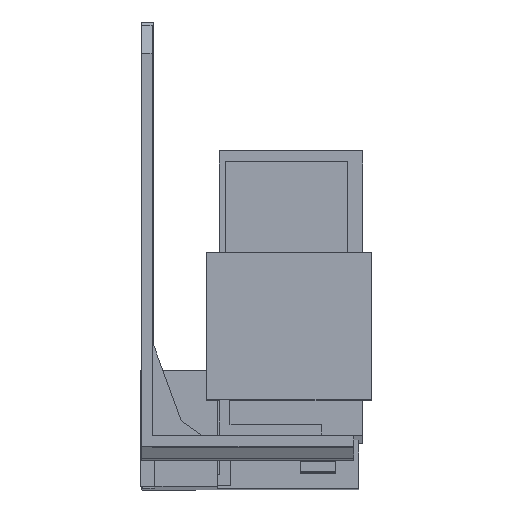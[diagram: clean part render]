
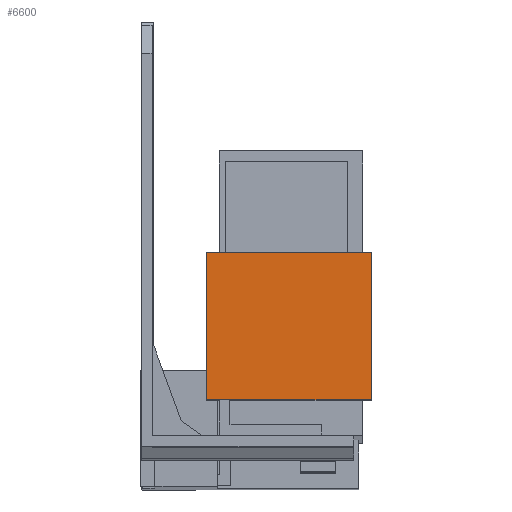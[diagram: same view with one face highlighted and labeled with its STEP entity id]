
A CAD part, front view. The second image highlights one B-rep face of the part: STEP entity #6600.
In plain terms, the highlighted planar face has unit normal (0, -1, 0.003).
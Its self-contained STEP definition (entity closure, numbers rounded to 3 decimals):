
#452 = CARTESIAN_POINT ( 'NONE',  ( 32.7, -29.009, -40.322 ) ) ;
#466 = CARTESIAN_POINT ( 'NONE',  ( 9.3, -28.952, -19.322 ) ) ;
#468 = CARTESIAN_POINT ( 'NONE',  ( 32.7, -28.952, -19.322 ) ) ;
#469 = CARTESIAN_POINT ( 'NONE',  ( 9.3, -29.009, -40.322 ) ) ;
#772 = VERTEX_POINT ( 'NONE', #466 ) ;
#776 = VERTEX_POINT ( 'NONE', #468 ) ;
#780 = VERTEX_POINT ( 'NONE', #469 ) ;
#793 = VERTEX_POINT ( 'NONE', #452 ) ;
#1347 = EDGE_CURVE ( 'NONE', #772, #776, #4290, .T. ) ;
#1428 = EDGE_CURVE ( 'NONE', #780, #793, #4429, .T. ) ;
#1863 = CARTESIAN_POINT ( 'NONE',  ( 32.7, -29.009, -40.322 ) ) ;
#1864 = DIRECTION ( 'NONE',  ( 0., 0.003, 1. ) ) ;
#2211 = CARTESIAN_POINT ( 'NONE',  ( 9.3, -29.009, -40.322 ) ) ;
#2212 = DIRECTION ( 'NONE',  ( 0., 0.003, 1. ) ) ;
#2571 = LINE ( 'NONE', #1863, #2572 ) ;
#2572 = VECTOR ( 'NONE', #1864, 1000. ) ;
#2771 = LINE ( 'NONE', #2211, #2772 ) ;
#2772 = VECTOR ( 'NONE', #2212, 1000. ) ;
#3454 = PLANE ( 'NONE',  #7002 ) ;
#3457 = CARTESIAN_POINT ( 'NONE',  ( 9.3, -29.009, -40.322 ) ) ;
#3463 = DIRECTION ( 'NONE',  ( 0., -1., 0.003 ) ) ;
#3464 = DIRECTION ( 'NONE',  ( -1., 0., 0. ) ) ;
#4290 = LINE ( 'NONE', #7523, #4291 ) ;
#4291 = VECTOR ( 'NONE', #7639, 1000. ) ;
#4429 = LINE ( 'NONE', #7694, #4433 ) ;
#4433 = VECTOR ( 'NONE', #7786, 1000. ) ;
#4980 = FACE_OUTER_BOUND ( 'NONE', #7843, .T. ) ;
#6433 = ORIENTED_EDGE ( 'NONE', *, *, #1347, .F. ) ;
#6434 = ORIENTED_EDGE ( 'NONE', *, *, #7317, .F. ) ;
#6435 = ORIENTED_EDGE ( 'NONE', *, *, #1428, .T. ) ;
#6436 = ORIENTED_EDGE ( 'NONE', *, *, #6987, .T. ) ;
#6600 = ADVANCED_FACE ( 'NONE', ( #4980 ), #3454, .T. ) ;
#6987 = EDGE_CURVE ( 'NONE', #793, #776, #2571, .T. ) ;
#7002 = AXIS2_PLACEMENT_3D ( 'NONE', #3457, #3463, #3464 ) ;
#7317 = EDGE_CURVE ( 'NONE', #780, #772, #2771, .T. ) ;
#7523 = CARTESIAN_POINT ( 'NONE',  ( 9.3, -28.952, -19.322 ) ) ;
#7639 = DIRECTION ( 'NONE',  ( 1., 0., 0. ) ) ;
#7694 = CARTESIAN_POINT ( 'NONE',  ( 9.3, -29.009, -40.322 ) ) ;
#7786 = DIRECTION ( 'NONE',  ( 1., 0., 0. ) ) ;
#7843 = EDGE_LOOP ( 'NONE', ( #6433, #6434, #6435, #6436 ) ) ;
